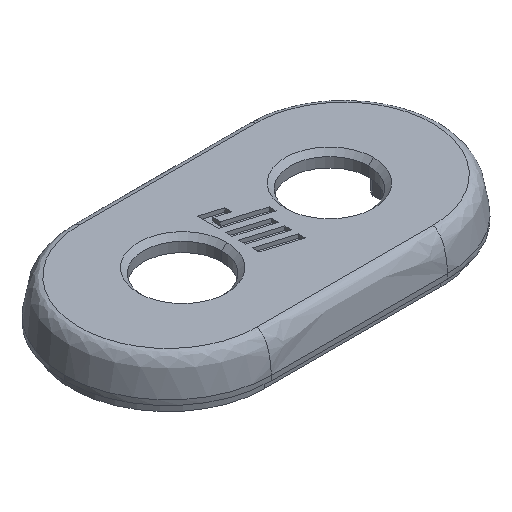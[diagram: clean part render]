
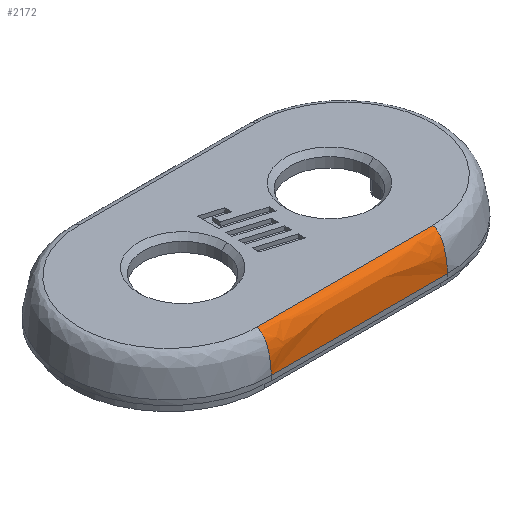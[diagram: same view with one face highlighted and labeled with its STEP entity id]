
A CAD part, isometric view. The second image highlights one B-rep face of the part: STEP entity #2172.
In plain terms, the highlighted free-form (B-spline) face has degree [2, 3] with [3, 4] control points.
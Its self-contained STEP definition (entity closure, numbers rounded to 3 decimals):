
#3 = EDGE_CURVE ( 'NONE', #1298, #3116, #1647, .T. ) ;
#243 = CARTESIAN_POINT ( 'NONE',  ( 36., -18.1, 8. ) ) ;
#284 = B_SPLINE_CURVE_WITH_KNOTS ( 'NONE', 3,
 ( #294, #3397, #1766, #243 ),
 .UNSPECIFIED., .F., .F.,
 ( 4, 4 ),
 ( 0., 1. ),
 .UNSPECIFIED. ) ;
#294 = CARTESIAN_POINT ( 'NONE',  ( 0., -18.1, 8. ) ) ;
#320 = CARTESIAN_POINT ( 'NONE',  ( 0., -21.1, 1. ) ) ;
#473 = CARTESIAN_POINT ( 'NONE',  ( 36., -21.1, 1. ) ) ;
#605 = CARTESIAN_POINT ( 'NONE',  ( 36., -18.1, 8. ) ) ;
#666 = CARTESIAN_POINT ( 'NONE',  ( 12., -21.1, 8. ) ) ;
#670 = CARTESIAN_POINT ( 'NONE',  ( 0., -18.1, 8. ) ) ;
#719 = FACE_OUTER_BOUND ( 'NONE', #4054, .T. ) ;
#1049 = CARTESIAN_POINT ( 'NONE',  ( 12., -21.1, 1. ) ) ;
#1140 = CARTESIAN_POINT ( 'NONE',  ( 0., -21.1, 1. ) ) ;
#1298 = VERTEX_POINT ( 'NONE', #2175 ) ;
#1410 = CARTESIAN_POINT ( 'NONE',  ( 0., -21.1, 1. ) ) ;
#1434 = CARTESIAN_POINT ( 'NONE',  ( 0., -21.1, 8. ) ) ;
#1460 = EDGE_CURVE ( 'NONE', #4455, #3116, #2300, .T. ) ;
#1512 = CARTESIAN_POINT ( 'NONE',  ( 0., -21.1, 8. ) ) ;
#1647 =( BOUNDED_CURVE ( )  B_SPLINE_CURVE ( 2, ( #670, #1512, #320 ),
 .UNSPECIFIED., .F., .F. ) 
 B_SPLINE_CURVE_WITH_KNOTS ( ( 3, 3 ),
 ( 0., 1. ),
 .UNSPECIFIED. ) 
 CURVE ( )  GEOMETRIC_REPRESENTATION_ITEM ( )  RATIONAL_B_SPLINE_CURVE ( ( 1., 0.707, 1. ) ) 
 REPRESENTATION_ITEM ( '' )  );
#1660 = VERTEX_POINT ( 'NONE', #605 ) ;
#1766 = CARTESIAN_POINT ( 'NONE',  ( 24., -18.1, 8. ) ) ;
#1861 = CARTESIAN_POINT ( 'NONE',  ( 24., -21.1, 8. ) ) ;
#2136 = ORIENTED_EDGE ( 'NONE', *, *, #2226, .F. ) ;
#2172 = ADVANCED_FACE ( 'NONE', ( #719 ), #2289, .T. ) ;
#2175 = CARTESIAN_POINT ( 'NONE',  ( 0., -18.1, 8. ) ) ;
#2226 = EDGE_CURVE ( 'NONE', #1298, #1660, #284, .T. ) ;
#2253 = CARTESIAN_POINT ( 'NONE',  ( 0., -21.1, 1. ) ) ;
#2289 =( BOUNDED_SURFACE ( )  B_SPLINE_SURFACE ( 2, 3, ( 
 ( #4502, #4551, #1049, #1410 ),
 ( #4478, #1861, #666, #1434 ),
 ( #4078, #2597, #4126, #4933 ) ),
 .UNSPECIFIED., .F., .F., .F. ) 
 B_SPLINE_SURFACE_WITH_KNOTS ( ( 3, 3 ),
 ( 4, 4 ),
 ( 0., 1. ),
 ( -0.036, 0. ),
 .UNSPECIFIED. ) 
 GEOMETRIC_REPRESENTATION_ITEM ( )  RATIONAL_B_SPLINE_SURFACE ( (
 ( 1., 1., 1., 1.),
 ( 0.707, 0.707, 0.707, 0.707),
 ( 1., 1., 1., 1.) ) ) 
 REPRESENTATION_ITEM ( '' )  SURFACE ( )  );
#2300 = B_SPLINE_CURVE_WITH_KNOTS ( 'NONE', 3,
 ( #2636, #3811, #4969, #1140 ),
 .UNSPECIFIED., .F., .F.,
 ( 4, 4 ),
 ( 0., 1. ),
 .UNSPECIFIED. ) ;
#2483 = ORIENTED_EDGE ( 'NONE', *, *, #3, .T. ) ;
#2493 =( BOUNDED_CURVE ( )  B_SPLINE_CURVE ( 2, ( #2746, #2653, #3855 ),
 .UNSPECIFIED., .F., .F. ) 
 B_SPLINE_CURVE_WITH_KNOTS ( ( 3, 3 ),
 ( 0., 1. ),
 .UNSPECIFIED. ) 
 CURVE ( )  GEOMETRIC_REPRESENTATION_ITEM ( )  RATIONAL_B_SPLINE_CURVE ( ( 1., 0.707, 1. ) ) 
 REPRESENTATION_ITEM ( '' )  );
#2597 = CARTESIAN_POINT ( 'NONE',  ( 24., -18.1, 8. ) ) ;
#2636 = CARTESIAN_POINT ( 'NONE',  ( 36., -21.1, 1. ) ) ;
#2653 = CARTESIAN_POINT ( 'NONE',  ( 36., -21.1, 8. ) ) ;
#2746 = CARTESIAN_POINT ( 'NONE',  ( 36., -18.1, 8. ) ) ;
#3116 = VERTEX_POINT ( 'NONE', #2253 ) ;
#3397 = CARTESIAN_POINT ( 'NONE',  ( 12., -18.1, 8. ) ) ;
#3811 = CARTESIAN_POINT ( 'NONE',  ( 24., -21.1, 1. ) ) ;
#3855 = CARTESIAN_POINT ( 'NONE',  ( 36., -21.1, 1. ) ) ;
#3972 = EDGE_CURVE ( 'NONE', #1660, #4455, #2493, .T. ) ;
#4054 = EDGE_LOOP ( 'NONE', ( #2483, #4190, #4064, #2136 ) ) ;
#4064 = ORIENTED_EDGE ( 'NONE', *, *, #3972, .F. ) ;
#4078 = CARTESIAN_POINT ( 'NONE',  ( 36., -18.1, 8. ) ) ;
#4126 = CARTESIAN_POINT ( 'NONE',  ( 12., -18.1, 8. ) ) ;
#4190 = ORIENTED_EDGE ( 'NONE', *, *, #1460, .F. ) ;
#4455 = VERTEX_POINT ( 'NONE', #473 ) ;
#4478 = CARTESIAN_POINT ( 'NONE',  ( 36., -21.1, 8. ) ) ;
#4502 = CARTESIAN_POINT ( 'NONE',  ( 36., -21.1, 1. ) ) ;
#4551 = CARTESIAN_POINT ( 'NONE',  ( 24., -21.1, 1. ) ) ;
#4933 = CARTESIAN_POINT ( 'NONE',  ( 0., -18.1, 8. ) ) ;
#4969 = CARTESIAN_POINT ( 'NONE',  ( 12., -21.1, 1. ) ) ;
